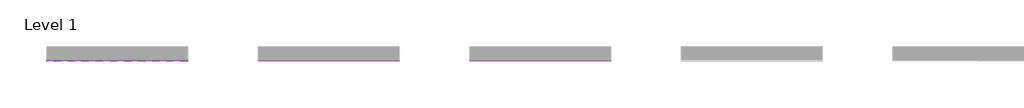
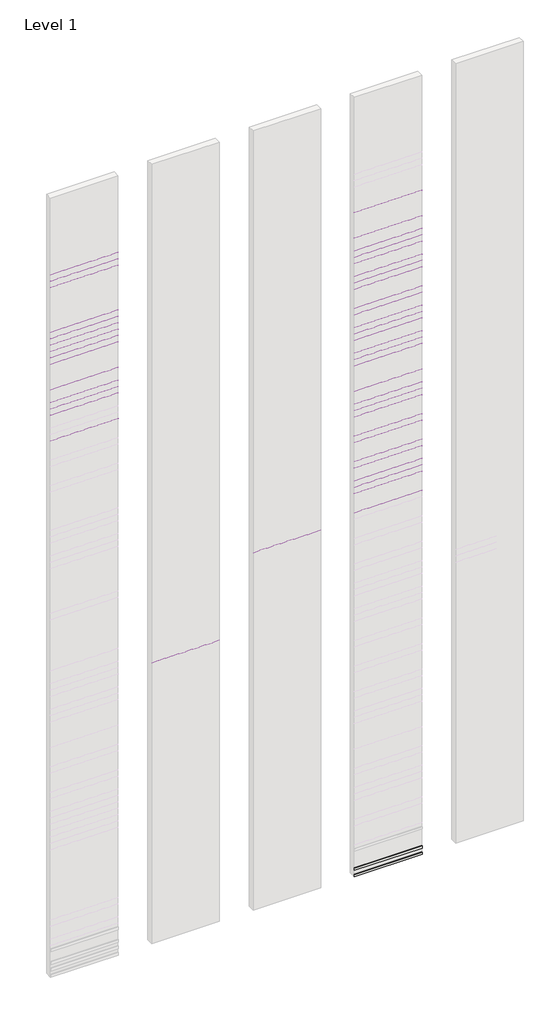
# One storey, part 2 of 3: 46 coverings.
"""IFC4 building model written with IfcOpenShell, lengths in millimetres."""

from ifc_helpers import new_model, si_unit, point, frame, frame_2d, origin, place, context, project, spatial, polyline, circle_curve, trimmed, segment, composite_curve, outline, extrude, element, save

model = new_model("IFC4")

# Units and contexts
model_context = context("Model", 3, world=origin())
ifc_project = project(units=[si_unit("LENGTHUNIT", "METRE", prefix="MILLI")], contexts=[model_context])

# Site, building, storey
site = spatial("IfcSite", under=ifc_project)
building = spatial("IfcBuilding", under=site)
storey = spatial("IfcBuildingStorey", under=building, Name="Level 1", Elevation=0.0)

# Coverings
placement = place(None, origin())
element("IfcCovering", 1, ObjectType="REVIGRÉS-CROMATICA-RB-9.5x30-MATTNAT-cromatica_preto", at=placement, inside=storey, context=model_context, shape_type="SweptSolid", body=[
    extrude(outline(composite_curve([segment(polyline([(9521.7775805, 18000.0), (9513.2775805, 18000.0), (9513.2775805, 18086.5)]), True, "CONTINUOUS"), segment(trimmed(circle_curve(frame_2d((9521.7775805, 18086.5)), 8.5), [point((9513.2775805, 18086.5))], [point((9521.7775805, 18095.0))], False, "CARTESIAN"), True, "CONTINUOUS"), segment(polyline([(9521.7775805, 18095.0), (9521.7775805, 18000.0)]), True, "CONTINUOUS")], self_intersect=False)), frame((-30127.1860756, 0.0, 0.0), z_axis=(1.0, 0.0, 0.0), x_axis=(0.0, 1.0, 0.0)), (0.0, 0.0, 1.0), 2000.0),
])
element("IfcCovering", 2, ObjectType="REVIGRÉS-CROMATICA-RB-9.5x29.5-POL-cromatica_teal", at=placement, inside=storey, context=model_context, shape_type="SweptSolid", body=[
    extrude(outline(composite_curve([segment(polyline([(9521.7775805, 20000.0), (9513.7775805, 20000.0), (9513.7775805, 20087.0)]), True, "CONTINUOUS"), segment(trimmed(circle_curve(frame_2d((9521.7775805, 20087.0)), 8.0), [point((9513.7775805, 20087.0))], [point((9521.7775805, 20095.0))], False, "CARTESIAN"), True, "CONTINUOUS"), segment(polyline([(9521.7775805, 20095.0), (9521.7775805, 20000.0)]), True, "CONTINUOUS")], self_intersect=False)), frame((-30127.1860756, 0.0, 0.0), z_axis=(1.0, 0.0, 0.0), x_axis=(0.0, 1.0, 0.0)), (0.0, 0.0, 1.0), 2000.0),
])
element("IfcCovering", 3, ObjectType="REVIGRÉS-CROMATICA-RB-9.5x29.5-MATTRECT-cromatica_superbranco", at=placement, inside=storey, context=model_context, shape_type="SweptSolid", body=[
    extrude(outline(composite_curve([segment(polyline([(9521.7775805, 19200.0), (9513.2775805, 19200.0), (9513.2775805, 19286.5)]), True, "CONTINUOUS"), segment(trimmed(circle_curve(frame_2d((9521.7775805, 19286.5)), 8.5), [point((9513.2775805, 19286.5))], [point((9521.7775805, 19295.0))], False, "CARTESIAN"), True, "CONTINUOUS"), segment(polyline([(9521.7775805, 19295.0), (9521.7775805, 19200.0)]), True, "CONTINUOUS")], self_intersect=False)), frame((-30127.1860756, 0.0, 0.0), z_axis=(1.0, 0.0, 0.0), x_axis=(0.0, 1.0, 0.0)), (0.0, 0.0, 1.0), 2000.0),
])
element("IfcCovering", 4, ObjectType="REVIGRÉS-CROMATICA-RB-9.5x29.5-MATTRECT-cromatica_platina", at=placement, inside=storey, context=model_context, shape_type="SweptSolid", body=[
    extrude(outline(composite_curve([segment(polyline([(9521.7775805, 16800.0), (9513.2775805, 16800.0), (9513.2775805, 16886.5)]), True, "CONTINUOUS"), segment(trimmed(circle_curve(frame_2d((9521.7775805, 16886.5)), 8.5), [point((9513.2775805, 16886.5))], [point((9521.7775805, 16895.0))], False, "CARTESIAN"), True, "CONTINUOUS"), segment(polyline([(9521.7775805, 16895.0), (9521.7775805, 16800.0)]), True, "CONTINUOUS")], self_intersect=False)), frame((-30127.1860756, 0.0, 0.0), z_axis=(1.0, 0.0, 0.0), x_axis=(0.0, 1.0, 0.0)), (0.0, 0.0, 1.0), 2000.0),
])
element("IfcCovering", 5, ObjectType="REVIGRÉS-CROMATICA-RB-9.5x29.5-MATTRECT-cromatica_quartz", at=placement, inside=storey, context=model_context, shape_type="SweptSolid", body=[
    extrude(outline(composite_curve([segment(polyline([(9521.7775805, 18400.0), (9513.2775805, 18400.0), (9513.2775805, 18486.5)]), True, "CONTINUOUS"), segment(trimmed(circle_curve(frame_2d((9521.7775805, 18486.5)), 8.5), [point((9513.2775805, 18486.5))], [point((9521.7775805, 18495.0))], False, "CARTESIAN"), True, "CONTINUOUS"), segment(polyline([(9521.7775805, 18495.0), (9521.7775805, 18400.0)]), True, "CONTINUOUS")], self_intersect=False)), frame((-30127.1860756, 0.0, 0.0), z_axis=(1.0, 0.0, 0.0), x_axis=(0.0, 1.0, 0.0)), (0.0, 0.0, 1.0), 2000.0),
])
element("IfcCovering", 6, ObjectType="REVIGRÉS-CROMATICA-RB-9.5x29.5-SOFT-cromatica_preto", at=placement, inside=storey, context=model_context, shape_type="SweptSolid", body=[
    extrude(outline(composite_curve([segment(polyline([(9521.7775805, 17800.0), (9513.2775805, 17800.0), (9513.2775805, 17886.5)]), True, "CONTINUOUS"), segment(trimmed(circle_curve(frame_2d((9521.7775805, 17886.5)), 8.5), [point((9513.2775805, 17886.5))], [point((9521.7775805, 17895.0))], False, "CARTESIAN"), True, "CONTINUOUS"), segment(polyline([(9521.7775805, 17895.0), (9521.7775805, 17800.0)]), True, "CONTINUOUS")], self_intersect=False)), frame((-30127.1860756, 0.0, 0.0), z_axis=(1.0, 0.0, 0.0), x_axis=(0.0, 1.0, 0.0)), (0.0, 0.0, 1.0), 2000.0),
])
element("IfcCovering", 7, ObjectType="REVIGRÉS-CROMATICA-RB-9.5x29.5-POL-cromatica_preto", at=placement, inside=storey, context=model_context, shape_type="SweptSolid", body=[
    extrude(outline(composite_curve([segment(polyline([(9521.7775805, 17600.0), (9513.7775805, 17600.0), (9513.7775805, 17687.0)]), True, "CONTINUOUS"), segment(trimmed(circle_curve(frame_2d((9521.7775805, 17687.0)), 8.0), [point((9513.7775805, 17687.0))], [point((9521.7775805, 17695.0))], False, "CARTESIAN"), True, "CONTINUOUS"), segment(polyline([(9521.7775805, 17695.0), (9521.7775805, 17600.0)]), True, "CONTINUOUS")], self_intersect=False)), frame((-30127.1860756, 0.0, 0.0), z_axis=(1.0, 0.0, 0.0), x_axis=(0.0, 1.0, 0.0)), (0.0, 0.0, 1.0), 2000.0),
])
element("IfcCovering", 8, ObjectType="REVIGRÉS-CROMATICA-RB-9.5x29.5-SOFT-cromatica_teal", at=placement, inside=storey, context=model_context, shape_type="SweptSolid", body=[
    extrude(outline(composite_curve([segment(polyline([(9521.7775805, 20200.0), (9513.2775805, 20200.0), (9513.2775805, 20286.5)]), True, "CONTINUOUS"), segment(trimmed(circle_curve(frame_2d((9521.7775805, 20286.5)), 8.5), [point((9513.2775805, 20286.5))], [point((9521.7775805, 20295.0))], False, "CARTESIAN"), True, "CONTINUOUS"), segment(polyline([(9521.7775805, 20295.0), (9521.7775805, 20200.0)]), True, "CONTINUOUS")], self_intersect=False)), frame((-30127.1860756, 0.0, 0.0), z_axis=(1.0, 0.0, 0.0), x_axis=(0.0, 1.0, 0.0)), (0.0, 0.0, 1.0), 2000.0),
])
element("IfcCovering", 9, ObjectType="REVIGRÉS-CROMATICA-RB-9.5x29.5-POL-cromatica_superbranco", at=placement, inside=storey, context=model_context, shape_type="SweptSolid", body=[
    extrude(outline(composite_curve([segment(polyline([(9521.7775805, 19400.0), (9513.7775805, 19400.0), (9513.7775805, 19487.0)]), True, "CONTINUOUS"), segment(trimmed(circle_curve(frame_2d((9521.7775805, 19487.0)), 8.0), [point((9513.7775805, 19487.0))], [point((9521.7775805, 19495.0))], False, "CARTESIAN"), True, "CONTINUOUS"), segment(polyline([(9521.7775805, 19495.0), (9521.7775805, 19400.0)]), True, "CONTINUOUS")], self_intersect=False)), frame((-30127.1860756, 0.0, 0.0), z_axis=(1.0, 0.0, 0.0), x_axis=(0.0, 1.0, 0.0)), (0.0, 0.0, 1.0), 2000.0),
])
element("IfcCovering", 10, ObjectType="REVIGRÉS-CROMATICA-RB-9.5x29.5-SOFT-cromatica_superbranco", at=placement, inside=storey, context=model_context, shape_type="SweptSolid", body=[
    extrude(outline(composite_curve([segment(polyline([(9521.7775805, 19600.0), (9513.2775805, 19600.0), (9513.2775805, 19686.5)]), True, "CONTINUOUS"), segment(trimmed(circle_curve(frame_2d((9521.7775805, 19686.5)), 8.5), [point((9513.2775805, 19686.5))], [point((9521.7775805, 19695.0))], False, "CARTESIAN"), True, "CONTINUOUS"), segment(polyline([(9521.7775805, 19695.0), (9521.7775805, 19600.0)]), True, "CONTINUOUS")], self_intersect=False)), frame((-30127.1860756, 0.0, 0.0), z_axis=(1.0, 0.0, 0.0), x_axis=(0.0, 1.0, 0.0)), (0.0, 0.0, 1.0), 2000.0),
])
element("IfcCovering", 11, ObjectType="REVIGRÉS-CROMATICA-RB-9.5x30-MATTNAT-cromatica_superbranco", at=placement, inside=storey, context=model_context, shape_type="SweptSolid", body=[
    extrude(outline(composite_curve([segment(polyline([(9521.7775805, 19800.0), (9513.2775805, 19800.0), (9513.2775805, 19886.5)]), True, "CONTINUOUS"), segment(trimmed(circle_curve(frame_2d((9521.7775805, 19886.5)), 8.5), [point((9513.2775805, 19886.5))], [point((9521.7775805, 19895.0))], False, "CARTESIAN"), True, "CONTINUOUS"), segment(polyline([(9521.7775805, 19895.0), (9521.7775805, 19800.0)]), True, "CONTINUOUS")], self_intersect=False)), frame((-30127.1860756, 0.0, 0.0), z_axis=(1.0, 0.0, 0.0), x_axis=(0.0, 1.0, 0.0)), (0.0, 0.0, 1.0), 2000.0),
])
element("IfcCovering", 12, ObjectType="REVIGRÉS-CROMATICA-RB-9.5x29.5-MATTRECT-cromatica_titanium", at=placement, inside=storey, context=model_context, shape_type="SweptSolid", body=[
    extrude(outline(composite_curve([segment(polyline([(9521.7775805, 21600.0), (9513.2775805, 21600.0), (9513.2775805, 21686.5)]), True, "CONTINUOUS"), segment(trimmed(circle_curve(frame_2d((9521.7775805, 21686.5)), 8.5), [point((9513.2775805, 21686.5))], [point((9521.7775805, 21695.0))], False, "CARTESIAN"), True, "CONTINUOUS"), segment(polyline([(9521.7775805, 21695.0), (9521.7775805, 21600.0)]), True, "CONTINUOUS")], self_intersect=False)), frame((-30127.1860756, 0.0, 0.0), z_axis=(1.0, 0.0, 0.0), x_axis=(0.0, 1.0, 0.0)), (0.0, 0.0, 1.0), 2000.0),
])
element("IfcCovering", 13, ObjectType="REVIGRÉS-CROMATICA-RB-9.5x29.5-POL-cromatica_titanium", at=placement, inside=storey, context=model_context, shape_type="SweptSolid", body=[
    extrude(outline(composite_curve([segment(polyline([(9521.7775805, 21800.0), (9513.7775805, 21800.0), (9513.7775805, 21887.0)]), True, "CONTINUOUS"), segment(trimmed(circle_curve(frame_2d((9521.7775805, 21887.0)), 8.0), [point((9513.7775805, 21887.0))], [point((9521.7775805, 21895.0))], False, "CARTESIAN"), True, "CONTINUOUS"), segment(polyline([(9521.7775805, 21895.0), (9521.7775805, 21800.0)]), True, "CONTINUOUS")], self_intersect=False)), frame((-30127.1860756, 0.0, 0.0), z_axis=(1.0, 0.0, 0.0), x_axis=(0.0, 1.0, 0.0)), (0.0, 0.0, 1.0), 2000.0),
])
element("IfcCovering", 14, ObjectType="REVIGRÉS-CROMATICA-RB-9.5x29.5-SOFT-cromatica_titanium", at=placement, inside=storey, context=model_context, shape_type="SweptSolid", body=[
    extrude(outline(composite_curve([segment(polyline([(9521.7775805, 22000.0), (9513.2775805, 22000.0), (9513.2775805, 22086.5)]), True, "CONTINUOUS"), segment(trimmed(circle_curve(frame_2d((9521.7775805, 22086.5)), 8.5), [point((9513.2775805, 22086.5))], [point((9521.7775805, 22095.0))], False, "CARTESIAN"), True, "CONTINUOUS"), segment(polyline([(9521.7775805, 22095.0), (9521.7775805, 22000.0)]), True, "CONTINUOUS")], self_intersect=False)), frame((-30127.1860756, 0.0, 0.0), z_axis=(1.0, 0.0, 0.0), x_axis=(0.0, 1.0, 0.0)), (0.0, 0.0, 1.0), 2000.0),
])
element("IfcCovering", 15, ObjectType="REVIGRÉS-CROMATICA-RB-8x44.35-POL-cromatica_ice", at=placement, inside=storey, context=model_context, shape_type="SweptSolid", body=[
    extrude(outline(composite_curve([segment(polyline([(9521.7775805, 8800.0), (9513.7775805, 8800.0), (9513.7775805, 8872.0)]), True, "CONTINUOUS"), segment(trimmed(circle_curve(frame_2d((9521.7775805, 8872.0)), 8.0), [point((9513.7775805, 8872.0))], [point((9521.7775805, 8880.0))], False, "CARTESIAN"), True, "CONTINUOUS"), segment(polyline([(9521.7775805, 8880.0), (9521.7775805, 8800.0)]), True, "CONTINUOUS")], self_intersect=False)), frame((-27127.1860756, 0.0, 0.0), z_axis=(1.0, 0.0, 0.0), x_axis=(0.0, 1.0, 0.0)), (0.0, 0.0, 1.0), 2000.0),
])
element("IfcCovering", 16, ObjectType="REVIGRÉS-CROMATICA-RB-8x44.35-POL-cromatica_jet", at=placement, inside=storey, context=model_context, shape_type="SweptSolid", body=[
    extrude(outline(composite_curve([segment(polyline([(9521.7775805, 11200.0), (9513.7775805, 11200.0), (9513.7775805, 11272.0)]), True, "CONTINUOUS"), segment(trimmed(circle_curve(frame_2d((9521.7775805, 11272.0)), 8.0), [point((9513.7775805, 11272.0))], [point((9521.7775805, 11280.0))], False, "CARTESIAN"), True, "CONTINUOUS"), segment(polyline([(9521.7775805, 11280.0), (9521.7775805, 11200.0)]), True, "CONTINUOUS")], self_intersect=False)), frame((-24127.1860756, 0.0, 0.0), z_axis=(1.0, 0.0, 0.0), x_axis=(0.0, 1.0, 0.0)), (0.0, 0.0, 1.0), 2000.0),
])
element("IfcCovering", 17, ObjectType="REVIGRÉS-CROMATICA-RB-8x59.2-MATTRECT-cromatica_alloy", at=placement, inside=storey, context=model_context, shape_type="SweptSolid", body=[
    extrude(outline(composite_curve([segment(polyline([(9521.7775805, 0.0), (9513.2775805, 0.0), (9513.2775805, 71.5)]), True, "CONTINUOUS"), segment(trimmed(circle_curve(frame_2d((9521.7775805, 71.5)), 8.5), [point((9513.2775805, 71.5))], [point((9521.7775805, 80.0))], False, "CARTESIAN"), True, "CONTINUOUS"), segment(polyline([(9521.7775805, 80.0), (9521.7775805, 0.0)]), True, "CONTINUOUS")], self_intersect=False)), frame((-21127.1860756, 0.0, 0.0), z_axis=(1.0, 0.0, 0.0), x_axis=(0.0, 1.0, 0.0)), (0.0, 0.0, 1.0), 2000.0),
])
element("IfcCovering", 18, ObjectType="REVIGRÉS-CROMATICA-RB-8x59.2-POL-cromatica_alloy", at=placement, inside=storey, context=model_context, shape_type="SweptSolid", body=[
    extrude(outline(composite_curve([segment(polyline([(9521.7775805, 200.0), (9513.7775805, 200.0), (9513.7775805, 272.0)]), True, "CONTINUOUS"), segment(trimmed(circle_curve(frame_2d((9521.7775805, 272.0)), 8.0), [point((9513.7775805, 272.0))], [point((9521.7775805, 280.0))], False, "CARTESIAN"), True, "CONTINUOUS"), segment(polyline([(9521.7775805, 280.0), (9521.7775805, 200.0)]), True, "CONTINUOUS")], self_intersect=False)), frame((-21127.1860756, 0.0, 0.0), z_axis=(1.0, 0.0, 0.0), x_axis=(0.0, 1.0, 0.0)), (0.0, 0.0, 1.0), 2000.0),
])
element("IfcCovering", 19, ObjectType="REVIGRÉS-CROMATICA-RB-8x59.2-SOFT-cromatica_terracotta", at=placement, inside=storey, context=model_context, shape_type="SweptSolid", body=[
    extrude(outline(composite_curve([segment(polyline([(9521.7775805, 20800.0), (9513.2775805, 20800.0), (9513.2775805, 20871.5)]), True, "CONTINUOUS"), segment(trimmed(circle_curve(frame_2d((9521.7775805, 20871.5)), 8.5), [point((9513.2775805, 20871.5))], [point((9521.7775805, 20880.0))], False, "CARTESIAN"), True, "CONTINUOUS"), segment(polyline([(9521.7775805, 20880.0), (9521.7775805, 20800.0)]), True, "CONTINUOUS")], self_intersect=False)), frame((-21127.1860756, 0.0, 0.0), z_axis=(1.0, 0.0, 0.0), x_axis=(0.0, 1.0, 0.0)), (0.0, 0.0, 1.0), 2000.0),
])
element("IfcCovering", 20, ObjectType="REVIGRÉS-CROMATICA-RB-8x59.2-SOFT-cromatica_teal", at=placement, inside=storey, context=model_context, shape_type="SweptSolid", body=[
    extrude(outline(composite_curve([segment(polyline([(9521.7775805, 20000.0), (9513.2775805, 20000.0), (9513.2775805, 20071.5)]), True, "CONTINUOUS"), segment(trimmed(circle_curve(frame_2d((9521.7775805, 20071.5)), 8.5), [point((9513.2775805, 20071.5))], [point((9521.7775805, 20080.0))], False, "CARTESIAN"), True, "CONTINUOUS"), segment(polyline([(9521.7775805, 20080.0), (9521.7775805, 20000.0)]), True, "CONTINUOUS")], self_intersect=False)), frame((-21127.1860756, 0.0, 0.0), z_axis=(1.0, 0.0, 0.0), x_axis=(0.0, 1.0, 0.0)), (0.0, 0.0, 1.0), 2000.0),
])
element("IfcCovering", 21, ObjectType="REVIGRÉS-CROMATICA-RB-8x59.2-MATTRECT-cromatica_superbranco", at=placement, inside=storey, context=model_context, shape_type="SweptSolid", body=[
    extrude(outline(composite_curve([segment(polyline([(9521.7775805, 19200.0), (9513.2775805, 19200.0), (9513.2775805, 19271.5)]), True, "CONTINUOUS"), segment(trimmed(circle_curve(frame_2d((9521.7775805, 19271.5)), 8.5), [point((9513.2775805, 19271.5))], [point((9521.7775805, 19280.0))], False, "CARTESIAN"), True, "CONTINUOUS"), segment(polyline([(9521.7775805, 19280.0), (9521.7775805, 19200.0)]), True, "CONTINUOUS")], self_intersect=False)), frame((-21127.1860756, 0.0, 0.0), z_axis=(1.0, 0.0, 0.0), x_axis=(0.0, 1.0, 0.0)), (0.0, 0.0, 1.0), 2000.0),
])
element("IfcCovering", 22, ObjectType="REVIGRÉS-CROMATICA-RB-8x59.2-SOFT-cromatica_superbranco", at=placement, inside=storey, context=model_context, shape_type="SweptSolid", body=[
    extrude(outline(composite_curve([segment(polyline([(9521.7775805, 19600.0), (9513.2775805, 19600.0), (9513.2775805, 19671.5)]), True, "CONTINUOUS"), segment(trimmed(circle_curve(frame_2d((9521.7775805, 19671.5)), 8.5), [point((9513.2775805, 19671.5))], [point((9521.7775805, 19680.0))], False, "CARTESIAN"), True, "CONTINUOUS"), segment(polyline([(9521.7775805, 19680.0), (9521.7775805, 19600.0)]), True, "CONTINUOUS")], self_intersect=False)), frame((-21127.1860756, 0.0, 0.0), z_axis=(1.0, 0.0, 0.0), x_axis=(0.0, 1.0, 0.0)), (0.0, 0.0, 1.0), 2000.0),
])
element("IfcCovering", 23, ObjectType="REVIGRÉS-CROMATICA-RB-8x59.2-POL-cromatica_superbranco", at=placement, inside=storey, context=model_context, shape_type="SweptSolid", body=[
    extrude(outline(composite_curve([segment(polyline([(9521.7775805, 19400.0), (9513.7775805, 19400.0), (9513.7775805, 19472.0)]), True, "CONTINUOUS"), segment(trimmed(circle_curve(frame_2d((9521.7775805, 19472.0)), 8.0), [point((9513.7775805, 19472.0))], [point((9521.7775805, 19480.0))], False, "CARTESIAN"), True, "CONTINUOUS"), segment(polyline([(9521.7775805, 19480.0), (9521.7775805, 19400.0)]), True, "CONTINUOUS")], self_intersect=False)), frame((-21127.1860756, 0.0, 0.0), z_axis=(1.0, 0.0, 0.0), x_axis=(0.0, 1.0, 0.0)), (0.0, 0.0, 1.0), 2000.0),
])
element("IfcCovering", 24, ObjectType="REVIGRÉS-CROMATICA-RB-8x59.2-MATTRECT-cromatica_quartz", at=placement, inside=storey, context=model_context, shape_type="SweptSolid", body=[
    extrude(outline(composite_curve([segment(polyline([(9521.7775805, 18400.0), (9513.2775805, 18400.0), (9513.2775805, 18471.5)]), True, "CONTINUOUS"), segment(trimmed(circle_curve(frame_2d((9521.7775805, 18471.5)), 8.5), [point((9513.2775805, 18471.5))], [point((9521.7775805, 18480.0))], False, "CARTESIAN"), True, "CONTINUOUS"), segment(polyline([(9521.7775805, 18480.0), (9521.7775805, 18400.0)]), True, "CONTINUOUS")], self_intersect=False)), frame((-21127.1860756, 0.0, 0.0), z_axis=(1.0, 0.0, 0.0), x_axis=(0.0, 1.0, 0.0)), (0.0, 0.0, 1.0), 2000.0),
])
element("IfcCovering", 25, ObjectType="REVIGRÉS-CROMATICA-RB-8x59.2-POL-cromatica_quartz", at=placement, inside=storey, context=model_context, shape_type="SweptSolid", body=[
    extrude(outline(composite_curve([segment(polyline([(9521.7775805, 18600.0), (9513.7775805, 18600.0), (9513.7775805, 18672.0)]), True, "CONTINUOUS"), segment(trimmed(circle_curve(frame_2d((9521.7775805, 18672.0)), 8.0), [point((9513.7775805, 18672.0))], [point((9521.7775805, 18680.0))], False, "CARTESIAN"), True, "CONTINUOUS"), segment(polyline([(9521.7775805, 18680.0), (9521.7775805, 18600.0)]), True, "CONTINUOUS")], self_intersect=False)), frame((-21127.1860756, 0.0, 0.0), z_axis=(1.0, 0.0, 0.0), x_axis=(0.0, 1.0, 0.0)), (0.0, 0.0, 1.0), 2000.0),
])
element("IfcCovering", 26, ObjectType="REVIGRÉS-CROMATICA-RB-9.5x60-SOFT-cromatica_quartz", at=placement, inside=storey, context=model_context, shape_type="SweptSolid", body=[
    extrude(outline(composite_curve([segment(polyline([(9521.7775805, 18800.0), (9513.2775805, 18800.0), (9513.2775805, 18886.5)]), True, "CONTINUOUS"), segment(trimmed(circle_curve(frame_2d((9521.7775805, 18886.5)), 8.5), [point((9513.2775805, 18886.5))], [point((9521.7775805, 18895.0))], False, "CARTESIAN"), True, "CONTINUOUS"), segment(polyline([(9521.7775805, 18895.0), (9521.7775805, 18800.0)]), True, "CONTINUOUS")], self_intersect=False)), frame((-21127.1860756, 0.0, 0.0), z_axis=(1.0, 0.0, 0.0), x_axis=(0.0, 1.0, 0.0)), (0.0, 0.0, 1.0), 2000.0),
])
element("IfcCovering", 27, ObjectType="REVIGRÉS-CROMATICA-RB-8x59.2-POL-cromatica_preto", at=placement, inside=storey, context=model_context, shape_type="SweptSolid", body=[
    extrude(outline(composite_curve([segment(polyline([(9521.7775805, 17600.0), (9513.7775805, 17600.0), (9513.7775805, 17672.0)]), True, "CONTINUOUS"), segment(trimmed(circle_curve(frame_2d((9521.7775805, 17672.0)), 8.0), [point((9513.7775805, 17672.0))], [point((9521.7775805, 17680.0))], False, "CARTESIAN"), True, "CONTINUOUS"), segment(polyline([(9521.7775805, 17680.0), (9521.7775805, 17600.0)]), True, "CONTINUOUS")], self_intersect=False)), frame((-21127.1860756, 0.0, 0.0), z_axis=(1.0, 0.0, 0.0), x_axis=(0.0, 1.0, 0.0)), (0.0, 0.0, 1.0), 2000.0),
])
element("IfcCovering", 28, ObjectType="REVIGRÉS-CROMATICA-RB-8x59.2-SOFT-cromatica_preto", at=placement, inside=storey, context=model_context, shape_type="SweptSolid", body=[
    extrude(outline(composite_curve([segment(polyline([(9521.7775805, 17800.0), (9513.2775805, 17800.0), (9513.2775805, 17871.5)]), True, "CONTINUOUS"), segment(trimmed(circle_curve(frame_2d((9521.7775805, 17871.5)), 8.5), [point((9513.2775805, 17871.5))], [point((9521.7775805, 17880.0))], False, "CARTESIAN"), True, "CONTINUOUS"), segment(polyline([(9521.7775805, 17880.0), (9521.7775805, 17800.0)]), True, "CONTINUOUS")], self_intersect=False)), frame((-21127.1860756, 0.0, 0.0), z_axis=(1.0, 0.0, 0.0), x_axis=(0.0, 1.0, 0.0)), (0.0, 0.0, 1.0), 2000.0),
])
element("IfcCovering", 29, ObjectType="REVIGRÉS-CROMATICA-RB-8x59.2-MATTRECT-cromatica_platina", at=placement, inside=storey, context=model_context, shape_type="SweptSolid", body=[
    extrude(outline(composite_curve([segment(polyline([(9521.7775805, 16800.0), (9513.2775805, 16800.0), (9513.2775805, 16871.5)]), True, "CONTINUOUS"), segment(trimmed(circle_curve(frame_2d((9521.7775805, 16871.5)), 8.5), [point((9513.2775805, 16871.5))], [point((9521.7775805, 16880.0))], False, "CARTESIAN"), True, "CONTINUOUS"), segment(polyline([(9521.7775805, 16880.0), (9521.7775805, 16800.0)]), True, "CONTINUOUS")], self_intersect=False)), frame((-21127.1860756, 0.0, 0.0), z_axis=(1.0, 0.0, 0.0), x_axis=(0.0, 1.0, 0.0)), (0.0, 0.0, 1.0), 2000.0),
])
element("IfcCovering", 30, ObjectType="REVIGRÉS-CROMATICA-RB-8x59.2-POL-cromatica_platina", at=placement, inside=storey, context=model_context, shape_type="SweptSolid", body=[
    extrude(outline(composite_curve([segment(polyline([(9521.7775805, 17000.0), (9513.7775805, 17000.0), (9513.7775805, 17072.0)]), True, "CONTINUOUS"), segment(trimmed(circle_curve(frame_2d((9521.7775805, 17072.0)), 8.0), [point((9513.7775805, 17072.0))], [point((9521.7775805, 17080.0))], False, "CARTESIAN"), True, "CONTINUOUS"), segment(polyline([(9521.7775805, 17080.0), (9521.7775805, 17000.0)]), True, "CONTINUOUS")], self_intersect=False)), frame((-21127.1860756, 0.0, 0.0), z_axis=(1.0, 0.0, 0.0), x_axis=(0.0, 1.0, 0.0)), (0.0, 0.0, 1.0), 2000.0),
])
element("IfcCovering", 31, ObjectType="REVIGRÉS-CROMATICA-RB-8x59.2-SOFT-cromatica_platina", at=placement, inside=storey, context=model_context, shape_type="SweptSolid", body=[
    extrude(outline(composite_curve([segment(polyline([(9521.7775805, 17200.0), (9513.2775805, 17200.0), (9513.2775805, 17271.5)]), True, "CONTINUOUS"), segment(trimmed(circle_curve(frame_2d((9521.7775805, 17271.5)), 8.5), [point((9513.2775805, 17271.5))], [point((9521.7775805, 17280.0))], False, "CARTESIAN"), True, "CONTINUOUS"), segment(polyline([(9521.7775805, 17280.0), (9521.7775805, 17200.0)]), True, "CONTINUOUS")], self_intersect=False)), frame((-21127.1860756, 0.0, 0.0), z_axis=(1.0, 0.0, 0.0), x_axis=(0.0, 1.0, 0.0)), (0.0, 0.0, 1.0), 2000.0),
])
element("IfcCovering", 32, ObjectType="REVIGRÉS-CROMATICA-RB-8x59.2-MATTRECT-cromatica_pistachio", at=placement, inside=storey, context=model_context, shape_type="SweptSolid", body=[
    extrude(outline(composite_curve([segment(polyline([(9521.7775805, 16000.0), (9513.2775805, 16000.0), (9513.2775805, 16071.5)]), True, "CONTINUOUS"), segment(trimmed(circle_curve(frame_2d((9521.7775805, 16071.5)), 8.5), [point((9513.2775805, 16071.5))], [point((9521.7775805, 16080.0))], False, "CARTESIAN"), True, "CONTINUOUS"), segment(polyline([(9521.7775805, 16080.0), (9521.7775805, 16000.0)]), True, "CONTINUOUS")], self_intersect=False)), frame((-21127.1860756, 0.0, 0.0), z_axis=(1.0, 0.0, 0.0), x_axis=(0.0, 1.0, 0.0)), (0.0, 0.0, 1.0), 2000.0),
])
element("IfcCovering", 33, ObjectType="REVIGRÉS-CROMATICA-RB-8x59.2-POL-cromatica_pistachio", at=placement, inside=storey, context=model_context, shape_type="SweptSolid", body=[
    extrude(outline(composite_curve([segment(polyline([(9521.7775805, 16200.0), (9513.7775805, 16200.0), (9513.7775805, 16272.0)]), True, "CONTINUOUS"), segment(trimmed(circle_curve(frame_2d((9521.7775805, 16272.0)), 8.0), [point((9513.7775805, 16272.0))], [point((9521.7775805, 16280.0))], False, "CARTESIAN"), True, "CONTINUOUS"), segment(polyline([(9521.7775805, 16280.0), (9521.7775805, 16200.0)]), True, "CONTINUOUS")], self_intersect=False)), frame((-21127.1860756, 0.0, 0.0), z_axis=(1.0, 0.0, 0.0), x_axis=(0.0, 1.0, 0.0)), (0.0, 0.0, 1.0), 2000.0),
])
element("IfcCovering", 34, ObjectType="REVIGRÉS-CROMATICA-RB-8x59.2-SOFT-cromatica_pistachio", at=placement, inside=storey, context=model_context, shape_type="SweptSolid", body=[
    extrude(outline(composite_curve([segment(polyline([(9521.7775805, 16400.0), (9513.2775805, 16400.0), (9513.2775805, 16471.5)]), True, "CONTINUOUS"), segment(trimmed(circle_curve(frame_2d((9521.7775805, 16471.5)), 8.5), [point((9513.2775805, 16471.5))], [point((9521.7775805, 16480.0))], False, "CARTESIAN"), True, "CONTINUOUS"), segment(polyline([(9521.7775805, 16480.0), (9521.7775805, 16400.0)]), True, "CONTINUOUS")], self_intersect=False)), frame((-21127.1860756, 0.0, 0.0), z_axis=(1.0, 0.0, 0.0), x_axis=(0.0, 1.0, 0.0)), (0.0, 0.0, 1.0), 2000.0),
])
element("IfcCovering", 35, ObjectType="REVIGRÉS-CROMATICA-RB-8x59.2-SOFT-cromatica_palm", at=placement, inside=storey, context=model_context, shape_type="SweptSolid", body=[
    extrude(outline(composite_curve([segment(polyline([(9521.7775805, 15200.0), (9513.2775805, 15200.0), (9513.2775805, 15271.5)]), True, "CONTINUOUS"), segment(trimmed(circle_curve(frame_2d((9521.7775805, 15271.5)), 8.5), [point((9513.2775805, 15271.5))], [point((9521.7775805, 15280.0))], False, "CARTESIAN"), True, "CONTINUOUS"), segment(polyline([(9521.7775805, 15280.0), (9521.7775805, 15200.0)]), True, "CONTINUOUS")], self_intersect=False)), frame((-21127.1860756, 0.0, 0.0), z_axis=(1.0, 0.0, 0.0), x_axis=(0.0, 1.0, 0.0)), (0.0, 0.0, 1.0), 2000.0),
])
element("IfcCovering", 36, ObjectType="REVIGRÉS-CROMATICA-RB-8x59.2-MATTRECT-cromatica_opala", at=placement, inside=storey, context=model_context, shape_type="SweptSolid", body=[
    extrude(outline(composite_curve([segment(polyline([(9521.7775805, 14400.0), (9513.2775805, 14400.0), (9513.2775805, 14471.5)]), True, "CONTINUOUS"), segment(trimmed(circle_curve(frame_2d((9521.7775805, 14471.5)), 8.5), [point((9513.2775805, 14471.5))], [point((9521.7775805, 14480.0))], False, "CARTESIAN"), True, "CONTINUOUS"), segment(polyline([(9521.7775805, 14480.0), (9521.7775805, 14400.0)]), True, "CONTINUOUS")], self_intersect=False)), frame((-21127.1860756, 0.0, 0.0), z_axis=(1.0, 0.0, 0.0), x_axis=(0.0, 1.0, 0.0)), (0.0, 0.0, 1.0), 2000.0),
])
element("IfcCovering", 37, ObjectType="REVIGRÉS-CROMATICA-RB-8x59.2-POL-cromatica_opala", at=placement, inside=storey, context=model_context, shape_type="SweptSolid", body=[
    extrude(outline(composite_curve([segment(polyline([(9521.7775805, 14600.0), (9513.7775805, 14600.0), (9513.7775805, 14672.0)]), True, "CONTINUOUS"), segment(trimmed(circle_curve(frame_2d((9521.7775805, 14672.0)), 8.0), [point((9513.7775805, 14672.0))], [point((9521.7775805, 14680.0))], False, "CARTESIAN"), True, "CONTINUOUS"), segment(polyline([(9521.7775805, 14680.0), (9521.7775805, 14600.0)]), True, "CONTINUOUS")], self_intersect=False)), frame((-21127.1860756, 0.0, 0.0), z_axis=(1.0, 0.0, 0.0), x_axis=(0.0, 1.0, 0.0)), (0.0, 0.0, 1.0), 2000.0),
])
element("IfcCovering", 38, ObjectType="REVIGRÉS-CROMATICA-RB-8x59.2-SOFT-cromatica_opala", at=placement, inside=storey, context=model_context, shape_type="SweptSolid", body=[
    extrude(outline(composite_curve([segment(polyline([(9521.7775805, 14800.0), (9513.2775805, 14800.0), (9513.2775805, 14871.5)]), True, "CONTINUOUS"), segment(trimmed(circle_curve(frame_2d((9521.7775805, 14871.5)), 8.5), [point((9513.2775805, 14871.5))], [point((9521.7775805, 14880.0))], False, "CARTESIAN"), True, "CONTINUOUS"), segment(polyline([(9521.7775805, 14880.0), (9521.7775805, 14800.0)]), True, "CONTINUOUS")], self_intersect=False)), frame((-21127.1860756, 0.0, 0.0), z_axis=(1.0, 0.0, 0.0), x_axis=(0.0, 1.0, 0.0)), (0.0, 0.0, 1.0), 2000.0),
])
element("IfcCovering", 39, ObjectType="REVIGRÉS-CROMATICA-RB-8x59.2-MATTRECT-cromatica_oliva", at=placement, inside=storey, context=model_context, shape_type="SweptSolid", body=[
    extrude(outline(composite_curve([segment(polyline([(9521.7775805, 13600.0), (9513.2775805, 13600.0), (9513.2775805, 13671.5)]), True, "CONTINUOUS"), segment(trimmed(circle_curve(frame_2d((9521.7775805, 13671.5)), 8.5), [point((9513.2775805, 13671.5))], [point((9521.7775805, 13680.0))], False, "CARTESIAN"), True, "CONTINUOUS"), segment(polyline([(9521.7775805, 13680.0), (9521.7775805, 13600.0)]), True, "CONTINUOUS")], self_intersect=False)), frame((-21127.1860756, 0.0, 0.0), z_axis=(1.0, 0.0, 0.0), x_axis=(0.0, 1.0, 0.0)), (0.0, 0.0, 1.0), 2000.0),
])
element("IfcCovering", 40, ObjectType="REVIGRÉS-CROMATICA-RB-8x59.2-SOFT-cromatica_oliva", at=placement, inside=storey, context=model_context, shape_type="SweptSolid", body=[
    extrude(outline(composite_curve([segment(polyline([(9521.7775805, 13800.0), (9513.2775805, 13800.0), (9513.2775805, 13871.5)]), True, "CONTINUOUS"), segment(trimmed(circle_curve(frame_2d((9521.7775805, 13871.5)), 8.5), [point((9513.2775805, 13871.5))], [point((9521.7775805, 13880.0))], False, "CARTESIAN"), True, "CONTINUOUS"), segment(polyline([(9521.7775805, 13880.0), (9521.7775805, 13800.0)]), True, "CONTINUOUS")], self_intersect=False)), frame((-21127.1860756, 0.0, 0.0), z_axis=(1.0, 0.0, 0.0), x_axis=(0.0, 1.0, 0.0)), (0.0, 0.0, 1.0), 2000.0),
])
element("IfcCovering", 41, ObjectType="REVIGRÉS-CROMATICA-RB-8x59.2-MATTRECT-cromatica_ocre", at=placement, inside=storey, context=model_context, shape_type="SweptSolid", body=[
    extrude(outline(composite_curve([segment(polyline([(9521.7775805, 12800.0), (9513.2775805, 12800.0), (9513.2775805, 12871.5)]), True, "CONTINUOUS"), segment(trimmed(circle_curve(frame_2d((9521.7775805, 12871.5)), 8.5), [point((9513.2775805, 12871.5))], [point((9521.7775805, 12880.0))], False, "CARTESIAN"), True, "CONTINUOUS"), segment(polyline([(9521.7775805, 12880.0), (9521.7775805, 12800.0)]), True, "CONTINUOUS")], self_intersect=False)), frame((-21127.1860756, 0.0, 0.0), z_axis=(1.0, 0.0, 0.0), x_axis=(0.0, 1.0, 0.0)), (0.0, 0.0, 1.0), 2000.0),
])
element("IfcCovering", 42, ObjectType="REVIGRÉS-CROMATICA-RB-8x59.2-POL-cromatica_ocre", at=placement, inside=storey, context=model_context, shape_type="SweptSolid", body=[
    extrude(outline(composite_curve([segment(polyline([(9521.7775805, 13000.0), (9513.7775805, 13000.0), (9513.7775805, 13072.0)]), True, "CONTINUOUS"), segment(trimmed(circle_curve(frame_2d((9521.7775805, 13072.0)), 8.0), [point((9513.7775805, 13072.0))], [point((9521.7775805, 13080.0))], False, "CARTESIAN"), True, "CONTINUOUS"), segment(polyline([(9521.7775805, 13080.0), (9521.7775805, 13000.0)]), True, "CONTINUOUS")], self_intersect=False)), frame((-21127.1860756, 0.0, 0.0), z_axis=(1.0, 0.0, 0.0), x_axis=(0.0, 1.0, 0.0)), (0.0, 0.0, 1.0), 2000.0),
])
element("IfcCovering", 43, ObjectType="REVIGRÉS-CROMATICA-RB-8x59.2-MATTRECT-cromatica_lava", at=placement, inside=storey, context=model_context, shape_type="SweptSolid", body=[
    extrude(outline(composite_curve([segment(polyline([(9521.7775805, 12000.0), (9513.2775805, 12000.0), (9513.2775805, 12071.5)]), True, "CONTINUOUS"), segment(trimmed(circle_curve(frame_2d((9521.7775805, 12071.5)), 8.5), [point((9513.2775805, 12071.5))], [point((9521.7775805, 12080.0))], False, "CARTESIAN"), True, "CONTINUOUS"), segment(polyline([(9521.7775805, 12080.0), (9521.7775805, 12000.0)]), True, "CONTINUOUS")], self_intersect=False)), frame((-21127.1860756, 0.0, 0.0), z_axis=(1.0, 0.0, 0.0), x_axis=(0.0, 1.0, 0.0)), (0.0, 0.0, 1.0), 2000.0),
])
element("IfcCovering", 44, ObjectType="REVIGRÉS-CROMATICA-RB-8x59.2-POL-cromatica_lava", at=placement, inside=storey, context=model_context, shape_type="SweptSolid", body=[
    extrude(outline(composite_curve([segment(polyline([(9521.7775805, 12200.0), (9513.7775805, 12200.0), (9513.7775805, 12272.0)]), True, "CONTINUOUS"), segment(trimmed(circle_curve(frame_2d((9521.7775805, 12272.0)), 8.0), [point((9513.7775805, 12272.0))], [point((9521.7775805, 12280.0))], False, "CARTESIAN"), True, "CONTINUOUS"), segment(polyline([(9521.7775805, 12280.0), (9521.7775805, 12200.0)]), True, "CONTINUOUS")], self_intersect=False)), frame((-21127.1860756, 0.0, 0.0), z_axis=(1.0, 0.0, 0.0), x_axis=(0.0, 1.0, 0.0)), (0.0, 0.0, 1.0), 2000.0),
])
element("IfcCovering", 45, ObjectType="REVIGRÉS-CROMATICA-RB-8x59.2-SOFT-cromatica_lava", at=placement, inside=storey, context=model_context, shape_type="SweptSolid", body=[
    extrude(outline(composite_curve([segment(polyline([(9521.7775805, 12400.0), (9513.2775805, 12400.0), (9513.2775805, 12471.5)]), True, "CONTINUOUS"), segment(trimmed(circle_curve(frame_2d((9521.7775805, 12471.5)), 8.5), [point((9513.2775805, 12471.5))], [point((9521.7775805, 12480.0))], False, "CARTESIAN"), True, "CONTINUOUS"), segment(polyline([(9521.7775805, 12480.0), (9521.7775805, 12400.0)]), True, "CONTINUOUS")], self_intersect=False)), frame((-21127.1860756, 0.0, 0.0), z_axis=(1.0, 0.0, 0.0), x_axis=(0.0, 1.0, 0.0)), (0.0, 0.0, 1.0), 2000.0),
])
element("IfcCovering", 46, ObjectType="REVIGRÉS-CROMATICA-RB-8x59.2-SOFT-cromatica_jet", at=placement, inside=storey, context=model_context, shape_type="SweptSolid", body=[
    extrude(outline(composite_curve([segment(polyline([(9521.7775805, 11400.0), (9513.2775805, 11400.0), (9513.2775805, 11471.5)]), True, "CONTINUOUS"), segment(trimmed(circle_curve(frame_2d((9521.7775805, 11471.5)), 8.5), [point((9513.2775805, 11471.5))], [point((9521.7775805, 11480.0))], False, "CARTESIAN"), True, "CONTINUOUS"), segment(polyline([(9521.7775805, 11480.0), (9521.7775805, 11400.0)]), True, "CONTINUOUS")], self_intersect=False)), frame((-21127.1860756, 0.0, 0.0), z_axis=(1.0, 0.0, 0.0), x_axis=(0.0, 1.0, 0.0)), (0.0, 0.0, 1.0), 2000.0),
])

save(model, "model.ifc")
